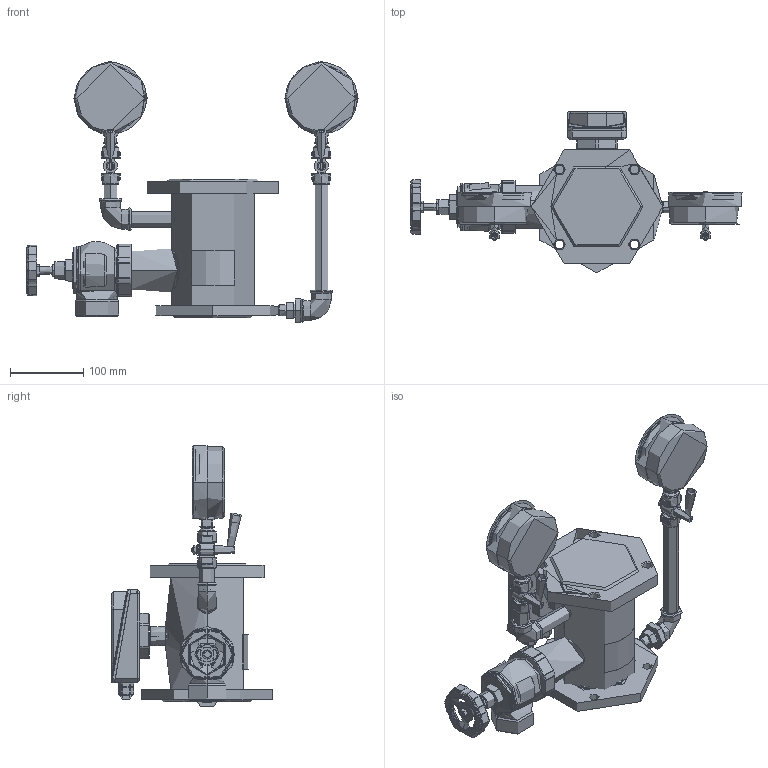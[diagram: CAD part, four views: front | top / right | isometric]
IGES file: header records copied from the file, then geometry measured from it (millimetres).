
Start section: File generated by T-FLEX CAD Version (null)
Global section: file name:           DN 65 3D.igs; native system: T-FLEX CAD; date: 211014.072322; units: millimetre
Bounding box: 454 x 221.09 x 356.5 mm (x, y, z)
Volume: 3988342.3 mm3; surface area: 523226.5 mm2
Topology: 22 solids, 31 shells, 2153 faces, 5214 edges, 3064 vertices
Faces by surface type: cylinder 781, plane 500, bspline 444, cone 192, revolution 190, sphere 46
